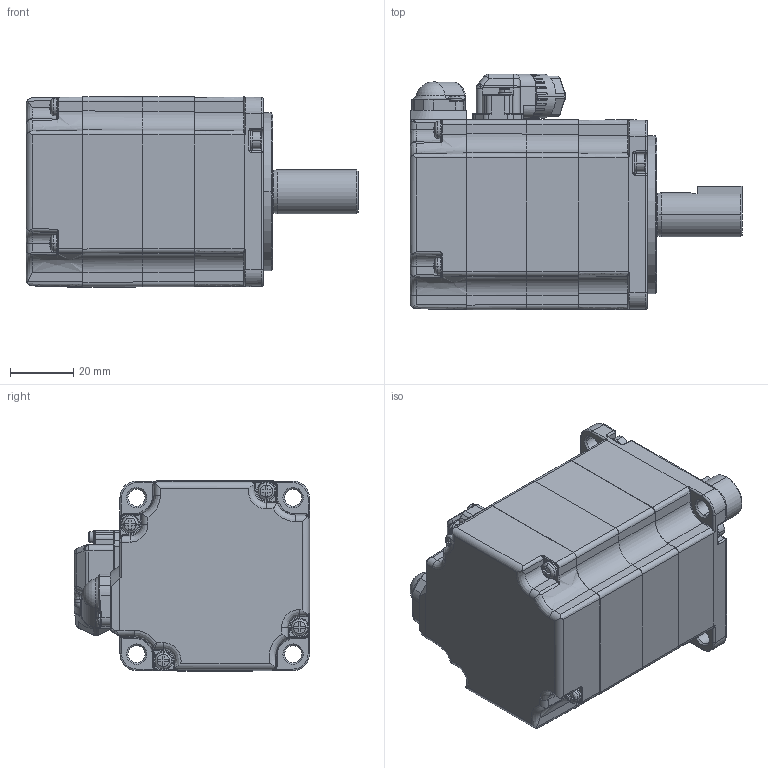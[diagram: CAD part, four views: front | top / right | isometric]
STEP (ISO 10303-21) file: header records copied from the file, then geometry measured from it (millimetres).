
FILE_DESCRIPTION( (''), '2;1');
FILE_NAME ('SGMXJ-02AUA6SC2.stp','2022-03-02T11:26:36',(''),(''),'spGate 15.6.6','','');
FILE_SCHEMA (('AUTOMOTIVE_DESIGN'));
Length unit declared in the file: millimetre
Products named in the file (9): Assembly; SGMXJ-02AUA6SC2-prt0; SGMXJ-02AUA6SC2-prt1; SGMXJ-02AUA6SC2-prt2; SGMXJ-02AUA6SC2-prt3; SGMXJ-02AUA6SC2-prt4; SGMXJ-02AUA6SC2-prt5; SGMXJ-02AUA6SC2-prt6; SGMXJ-02AUA6SC2-prt7
Assembly tree (8 placements, depth 2):
  Assembly
    SGMXJ-02AUA6SC2-prt0
    SGMXJ-02AUA6SC2-prt1
    SGMXJ-02AUA6SC2-prt2
    SGMXJ-02AUA6SC2-prt3
    SGMXJ-02AUA6SC2-prt4
    SGMXJ-02AUA6SC2-prt5
    SGMXJ-02AUA6SC2-prt6
    SGMXJ-02AUA6SC2-prt7
Bounding box: 105 x 74.58 x 60.27 mm (x, y, z)
Volume: 254234.7 mm3; surface area: 30416.7 mm2
Topology: 3 solids, 8 shells, 973 faces, 2525 edges, 1557 vertices
Faces by surface type: plane 365, cylinder 300, bspline 286, sphere 22
Entity records: 55479 total; most frequent: CARTESIAN_POINT 12946, ORIENTED_EDGE 4918, DIRECTION 4463, COLOUR_RGB 3489, PRESENTATION_STYLE_ASSIGNMENT 3489, STYLED_ITEM 3489, EDGE_CURVE 2508, DRAUGHTING_PRE_DEFINED_CURVE_FONT 2508
